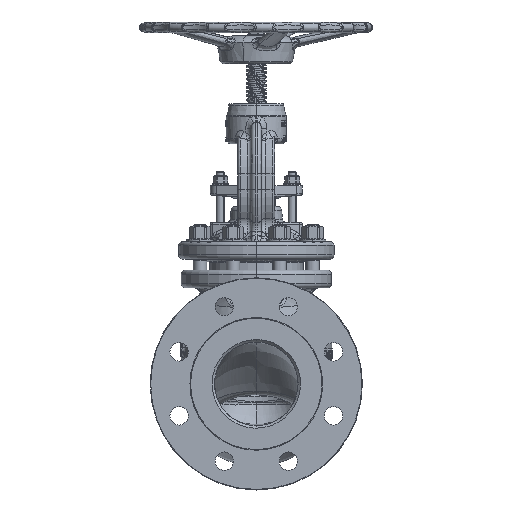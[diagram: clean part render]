
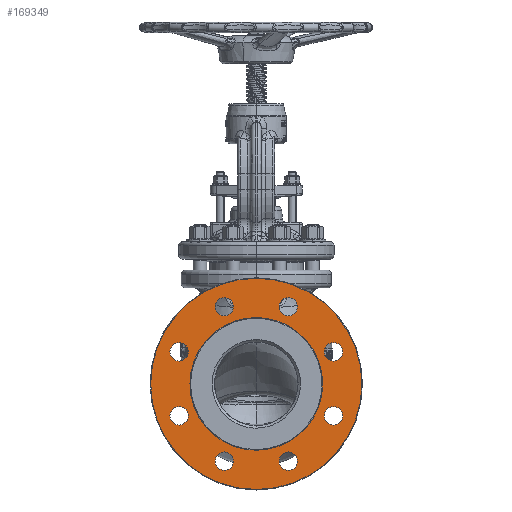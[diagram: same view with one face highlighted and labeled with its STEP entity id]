
A CAD part, left-side view. The second image highlights one B-rep face of the part: STEP entity #169349.
In plain terms, the highlighted planar face has unit normal (-1, 0, 0).
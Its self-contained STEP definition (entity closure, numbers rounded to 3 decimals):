
#50580=CARTESIAN_POINT('',(-176.4,0.,0.));
#50581=DIRECTION('',(-1.,0.,0.));
#50582=DIRECTION('',(0.,0.,1.));
#50583=AXIS2_PLACEMENT_3D('',#50580,#50581,#50582);
#50585=CARTESIAN_POINT('',(-176.4,0.,0.));
#50586=DIRECTION('',(1.,0.,0.));
#50587=DIRECTION('',(0.,0.,1.));
#50588=AXIS2_PLACEMENT_3D('',#50585,#50586,#50587);
#50590=CARTESIAN_POINT('',(-176.4,-38.287,92.434));
#50591=DIRECTION('',(-1.,0.,0.));
#50592=DIRECTION('',(0.,-1.,0.));
#50593=AXIS2_PLACEMENT_3D('',#50590,#50591,#50592);
#50595=CARTESIAN_POINT('',(-176.4,-38.287,92.434));
#50596=DIRECTION('',(-1.,0.,0.));
#50597=DIRECTION('',(0.,1.,0.));
#50598=AXIS2_PLACEMENT_3D('',#50595,#50596,#50597);
#50600=CARTESIAN_POINT('',(-176.4,-92.434,38.287));
#50601=DIRECTION('',(-1.,0.,0.));
#50602=DIRECTION('',(0.,-1.,0.));
#50603=AXIS2_PLACEMENT_3D('',#50600,#50601,#50602);
#50605=CARTESIAN_POINT('',(-176.4,-92.434,38.287));
#50606=DIRECTION('',(-1.,0.,0.));
#50607=DIRECTION('',(0.,1.,0.));
#50608=AXIS2_PLACEMENT_3D('',#50605,#50606,#50607);
#50610=CARTESIAN_POINT('',(-176.4,-92.434,-38.287));
#50611=DIRECTION('',(-1.,0.,0.));
#50612=DIRECTION('',(0.,-1.,0.));
#50613=AXIS2_PLACEMENT_3D('',#50610,#50611,#50612);
#50615=CARTESIAN_POINT('',(-176.4,-92.434,-38.287));
#50616=DIRECTION('',(-1.,0.,0.));
#50617=DIRECTION('',(0.,1.,0.));
#50618=AXIS2_PLACEMENT_3D('',#50615,#50616,#50617);
#50620=CARTESIAN_POINT('',(-176.4,-38.287,-92.434));
#50621=DIRECTION('',(-1.,0.,0.));
#50622=DIRECTION('',(0.,-1.,0.));
#50623=AXIS2_PLACEMENT_3D('',#50620,#50621,#50622);
#50625=CARTESIAN_POINT('',(-176.4,-38.287,-92.434));
#50626=DIRECTION('',(-1.,0.,0.));
#50627=DIRECTION('',(0.,1.,0.));
#50628=AXIS2_PLACEMENT_3D('',#50625,#50626,#50627);
#50630=CARTESIAN_POINT('',(-176.4,38.287,-92.434));
#50631=DIRECTION('',(-1.,0.,0.));
#50632=DIRECTION('',(0.,-1.,0.));
#50633=AXIS2_PLACEMENT_3D('',#50630,#50631,#50632);
#50635=CARTESIAN_POINT('',(-176.4,38.287,-92.434));
#50636=DIRECTION('',(-1.,0.,0.));
#50637=DIRECTION('',(0.,1.,0.));
#50638=AXIS2_PLACEMENT_3D('',#50635,#50636,#50637);
#50640=CARTESIAN_POINT('',(-176.4,92.434,-38.287));
#50641=DIRECTION('',(-1.,0.,0.));
#50642=DIRECTION('',(0.,-1.,0.));
#50643=AXIS2_PLACEMENT_3D('',#50640,#50641,#50642);
#50645=CARTESIAN_POINT('',(-176.4,92.434,-38.287));
#50646=DIRECTION('',(-1.,0.,0.));
#50647=DIRECTION('',(0.,1.,0.));
#50648=AXIS2_PLACEMENT_3D('',#50645,#50646,#50647);
#50650=CARTESIAN_POINT('',(-176.4,92.434,38.287));
#50651=DIRECTION('',(-1.,0.,0.));
#50652=DIRECTION('',(0.,-1.,0.));
#50653=AXIS2_PLACEMENT_3D('',#50650,#50651,#50652);
#50655=CARTESIAN_POINT('',(-176.4,92.434,38.287));
#50656=DIRECTION('',(-1.,0.,0.));
#50657=DIRECTION('',(0.,1.,0.));
#50658=AXIS2_PLACEMENT_3D('',#50655,#50656,#50657);
#50660=CARTESIAN_POINT('',(-176.4,38.287,92.434));
#50661=DIRECTION('',(-1.,0.,0.));
#50662=DIRECTION('',(0.,-1.,0.));
#50663=AXIS2_PLACEMENT_3D('',#50660,#50661,#50662);
#50665=CARTESIAN_POINT('',(-176.4,38.287,92.434));
#50666=DIRECTION('',(-1.,0.,0.));
#50667=DIRECTION('',(0.,1.,0.));
#50668=AXIS2_PLACEMENT_3D('',#50665,#50666,#50667);
#50675=CARTESIAN_POINT('',(-176.4,0.,0.));
#50676=DIRECTION('',(-1.,0.,0.));
#50677=DIRECTION('',(0.,0.,1.));
#50678=AXIS2_PLACEMENT_3D('',#50675,#50676,#50677);
#50685=CARTESIAN_POINT('',(-176.4,0.,0.));
#50686=DIRECTION('',(-1.,0.,0.));
#50687=DIRECTION('',(0.,0.,-1.));
#50688=AXIS2_PLACEMENT_3D('',#50685,#50686,#50687);
#73843=CARTESIAN_POINT('',(-176.4,0.,-126.387));
#73844=VERTEX_POINT('',#73843);
#73845=CARTESIAN_POINT('',(-176.4,0.,126.387));
#73846=VERTEX_POINT('',#73845);
#73871=CARTESIAN_POINT('',(-176.4,-49.287,92.434));
#73872=CARTESIAN_POINT('',(-176.4,-27.287,92.434));
#73873=VERTEX_POINT('',#73871);
#73874=VERTEX_POINT('',#73872);
#73879=CARTESIAN_POINT('',(-176.4,-103.434,38.287));
#73880=CARTESIAN_POINT('',(-176.4,-81.434,38.287));
#73881=VERTEX_POINT('',#73879);
#73882=VERTEX_POINT('',#73880);
#73887=CARTESIAN_POINT('',(-176.4,-103.434,-38.287));
#73888=CARTESIAN_POINT('',(-176.4,-81.434,-38.287));
#73889=VERTEX_POINT('',#73887);
#73890=VERTEX_POINT('',#73888);
#73895=CARTESIAN_POINT('',(-176.4,-49.287,-92.434));
#73896=CARTESIAN_POINT('',(-176.4,-27.287,-92.434));
#73897=VERTEX_POINT('',#73895);
#73898=VERTEX_POINT('',#73896);
#73903=CARTESIAN_POINT('',(-176.4,27.287,-92.434));
#73904=CARTESIAN_POINT('',(-176.4,49.287,-92.434));
#73905=VERTEX_POINT('',#73903);
#73906=VERTEX_POINT('',#73904);
#73911=CARTESIAN_POINT('',(-176.4,81.434,-38.287));
#73912=CARTESIAN_POINT('',(-176.4,103.434,-38.287));
#73913=VERTEX_POINT('',#73911);
#73914=VERTEX_POINT('',#73912);
#73919=CARTESIAN_POINT('',(-176.4,81.434,38.287));
#73920=CARTESIAN_POINT('',(-176.4,103.434,38.287));
#73921=VERTEX_POINT('',#73919);
#73922=VERTEX_POINT('',#73920);
#73927=CARTESIAN_POINT('',(-176.4,27.287,92.434));
#73928=CARTESIAN_POINT('',(-176.4,49.287,92.434));
#73929=VERTEX_POINT('',#73927);
#73930=VERTEX_POINT('',#73928);
#74063=CARTESIAN_POINT('',(-176.4,0.,79.4));
#74064=VERTEX_POINT('',#74063);
#74067=CARTESIAN_POINT('',(-176.4,0.,-79.4));
#74068=VERTEX_POINT('',#74067);
#169286=CARTESIAN_POINT('',(-176.4,0.,0.));
#169287=DIRECTION('',(-1.,0.,0.));
#169288=DIRECTION('',(0.,0.,1.));
#169289=AXIS2_PLACEMENT_3D('',#169286,#169287,#169288);
#169290=PLANE('',#169289);
#169292=ORIENTED_EDGE('',*,*,#169291,.F.);
#169294=ORIENTED_EDGE('',*,*,#169293,.F.);
#169295=EDGE_LOOP('',(#169292,#169294));
#169296=FACE_OUTER_BOUND('',#169295,.F.);
#169297=ORIENTED_EDGE('',*,*,#169268,.T.);
#169298=ORIENTED_EDGE('',*,*,#169279,.F.);
#169299=EDGE_LOOP('',(#169297,#169298));
#169300=FACE_BOUND('',#169299,.F.);
#169302=ORIENTED_EDGE('',*,*,#169301,.T.);
#169304=ORIENTED_EDGE('',*,*,#169303,.T.);
#169305=EDGE_LOOP('',(#169302,#169304));
#169306=FACE_BOUND('',#169305,.F.);
#169308=ORIENTED_EDGE('',*,*,#169307,.T.);
#169310=ORIENTED_EDGE('',*,*,#169309,.T.);
#169311=EDGE_LOOP('',(#169308,#169310));
#169312=FACE_BOUND('',#169311,.F.);
#169314=ORIENTED_EDGE('',*,*,#169313,.T.);
#169316=ORIENTED_EDGE('',*,*,#169315,.T.);
#169317=EDGE_LOOP('',(#169314,#169316));
#169318=FACE_BOUND('',#169317,.F.);
#169320=ORIENTED_EDGE('',*,*,#169319,.T.);
#169322=ORIENTED_EDGE('',*,*,#169321,.T.);
#169323=EDGE_LOOP('',(#169320,#169322));
#169324=FACE_BOUND('',#169323,.F.);
#169326=ORIENTED_EDGE('',*,*,#169325,.T.);
#169328=ORIENTED_EDGE('',*,*,#169327,.T.);
#169329=EDGE_LOOP('',(#169326,#169328));
#169330=FACE_BOUND('',#169329,.F.);
#169332=ORIENTED_EDGE('',*,*,#169331,.T.);
#169334=ORIENTED_EDGE('',*,*,#169333,.T.);
#169335=EDGE_LOOP('',(#169332,#169334));
#169336=FACE_BOUND('',#169335,.F.);
#169338=ORIENTED_EDGE('',*,*,#169337,.T.);
#169340=ORIENTED_EDGE('',*,*,#169339,.T.);
#169341=EDGE_LOOP('',(#169338,#169340));
#169342=FACE_BOUND('',#169341,.F.);
#169344=ORIENTED_EDGE('',*,*,#169343,.T.);
#169346=ORIENTED_EDGE('',*,*,#169345,.T.);
#169347=EDGE_LOOP('',(#169344,#169346));
#169348=FACE_BOUND('',#169347,.F.);
#50584=CIRCLE('',#50583,79.4);
#50589=CIRCLE('',#50588,79.4);
#50594=CIRCLE('',#50593,11.);
#50599=CIRCLE('',#50598,11.);
#50604=CIRCLE('',#50603,11.);
#50609=CIRCLE('',#50608,11.);
#50614=CIRCLE('',#50613,11.);
#50619=CIRCLE('',#50618,11.);
#50624=CIRCLE('',#50623,11.);
#50629=CIRCLE('',#50628,11.);
#50634=CIRCLE('',#50633,11.);
#50639=CIRCLE('',#50638,11.);
#50644=CIRCLE('',#50643,11.);
#50649=CIRCLE('',#50648,11.);
#50654=CIRCLE('',#50653,11.);
#50659=CIRCLE('',#50658,11.);
#50664=CIRCLE('',#50663,11.);
#50669=CIRCLE('',#50668,11.);
#50679=CIRCLE('',#50678,126.387);
#50689=CIRCLE('',#50688,126.387);
#169268=EDGE_CURVE('',#74064,#74068,#50584,.T.);
#169279=EDGE_CURVE('',#74064,#74068,#50589,.T.);
#169291=EDGE_CURVE('',#73846,#73844,#50679,.T.);
#169293=EDGE_CURVE('',#73844,#73846,#50689,.T.);
#169301=EDGE_CURVE('',#73873,#73874,#50594,.T.);
#169303=EDGE_CURVE('',#73874,#73873,#50599,.T.);
#169307=EDGE_CURVE('',#73881,#73882,#50604,.T.);
#169309=EDGE_CURVE('',#73882,#73881,#50609,.T.);
#169313=EDGE_CURVE('',#73889,#73890,#50614,.T.);
#169315=EDGE_CURVE('',#73890,#73889,#50619,.T.);
#169319=EDGE_CURVE('',#73897,#73898,#50624,.T.);
#169321=EDGE_CURVE('',#73898,#73897,#50629,.T.);
#169325=EDGE_CURVE('',#73905,#73906,#50634,.T.);
#169327=EDGE_CURVE('',#73906,#73905,#50639,.T.);
#169331=EDGE_CURVE('',#73913,#73914,#50644,.T.);
#169333=EDGE_CURVE('',#73914,#73913,#50649,.T.);
#169337=EDGE_CURVE('',#73921,#73922,#50654,.T.);
#169339=EDGE_CURVE('',#73922,#73921,#50659,.T.);
#169343=EDGE_CURVE('',#73929,#73930,#50664,.T.);
#169345=EDGE_CURVE('',#73930,#73929,#50669,.T.);
#169349=ADVANCED_FACE('',(#169296,#169300,#169306,#169312,#169318,#169324,
#169330,#169336,#169342,#169348),#169290,.T.);
